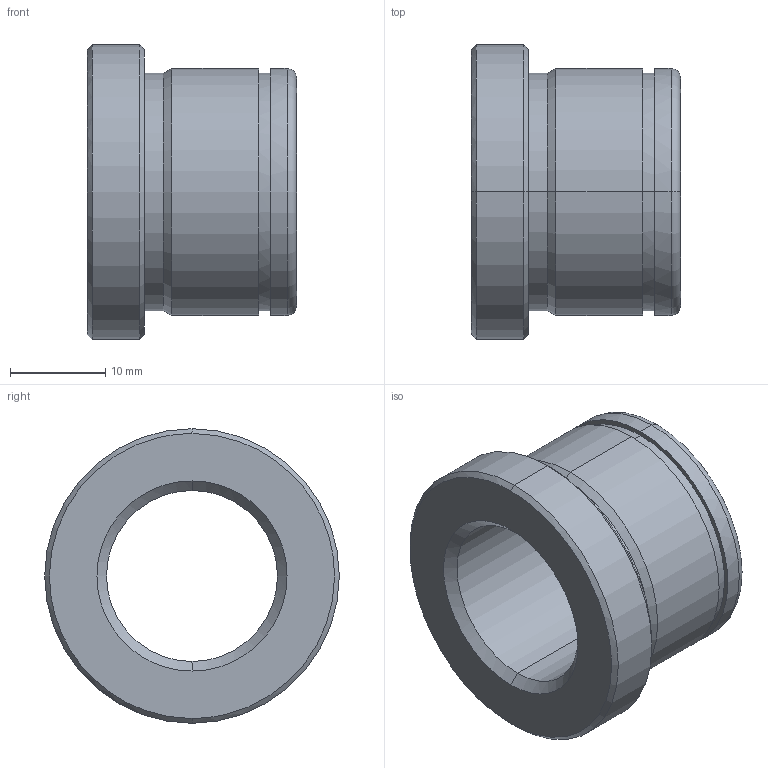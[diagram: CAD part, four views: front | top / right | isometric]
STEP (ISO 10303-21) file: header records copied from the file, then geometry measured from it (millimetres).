
FILE_DESCRIPTION(('CATIA V5 STEP Exchange'),'2;1');
FILE_NAME('C:\Users\Utente\Desktop\IO LAVORO\3D X SITO CF\X SITO\PLASTICA\553\553-18X22.stp','2021-05-23T17:32:26+00:00',('none'),('none'),'CATIA Version 5 Release 20 GA (IN-10)','CATIA V5 STEP AP203','none');
FILE_SCHEMA(('CONFIG_CONTROL_DESIGN'));
Length unit declared in the file: millimetre
Products named in the file (1): 553-18X22
Bounding box: 22 x 31 x 31 mm (x, y, z)
Volume: 7176.5 mm3; surface area: 4094.6 mm2
Topology: 1 solids, 1 shells, 29 faces, 92 edges, 68 vertices
Faces by surface type: cylinder 12, cone 8, plane 5, torus 4
Entity records: 1222 total; most frequent: CARTESIAN_POINT 368, ORIENTED_EDGE 184, DIRECTION 136, EDGE_CURVE 92, AXIS2_PLACEMENT_3D 88, VERTEX_POINT 68, CIRCLE 58, EDGE_LOOP 34
